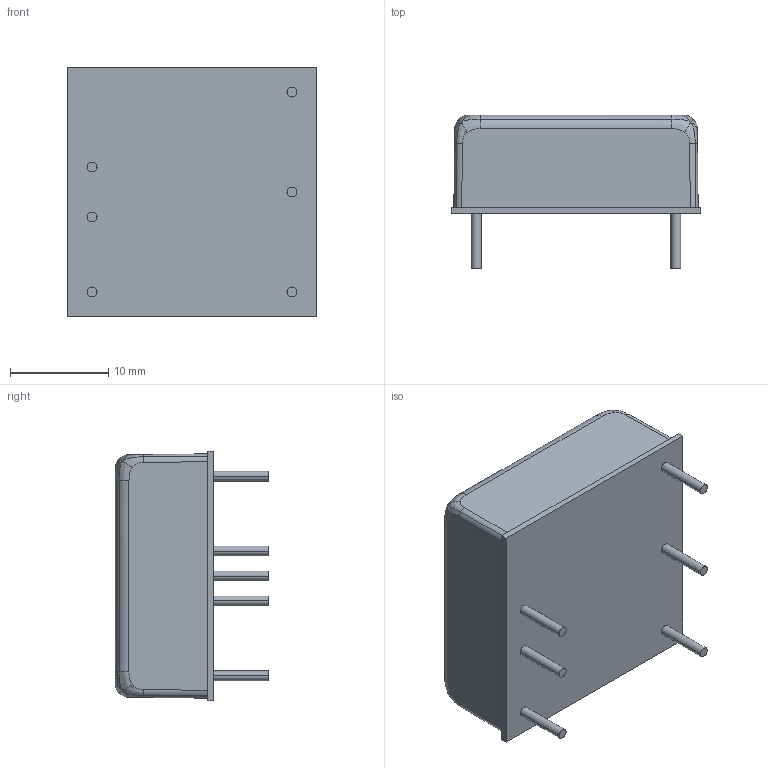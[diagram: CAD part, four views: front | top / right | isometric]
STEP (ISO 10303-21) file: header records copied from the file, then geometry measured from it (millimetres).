
FILE_DESCRIPTION (( 'STEP AP214' ), '1' );
FILE_NAME ('BCT40T.STEP', '2025-04-15T06:18:27', ( '' ), ( '' ), 'SwSTEP 2.0', 'SolidWorks 2024', '' );
FILE_SCHEMA (( 'AUTOMOTIVE_DESIGN' ));
Length unit declared in the file: millimetre
Products named in the file (1): BCT40T
Bounding box: 25.4 x 15.6 x 25.4 mm (x, y, z)
Volume: 978.4 mm3; surface area: 4265.2 mm2
Topology: 1 solids, 2 shells, 115 faces, 264 edges, 160 vertices
Faces by surface type: bspline 48, cylinder 44, plane 23
Entity records: 6263 total; most frequent: CARTESIAN_POINT 4076, ORIENTED_EDGE 528, DIRECTION 296, EDGE_CURVE 264, VERTEX_POINT 160, B_SPLINE_CURVE_WITH_KNOTS 128, EDGE_LOOP 122, FACE_OUTER_BOUND 115
